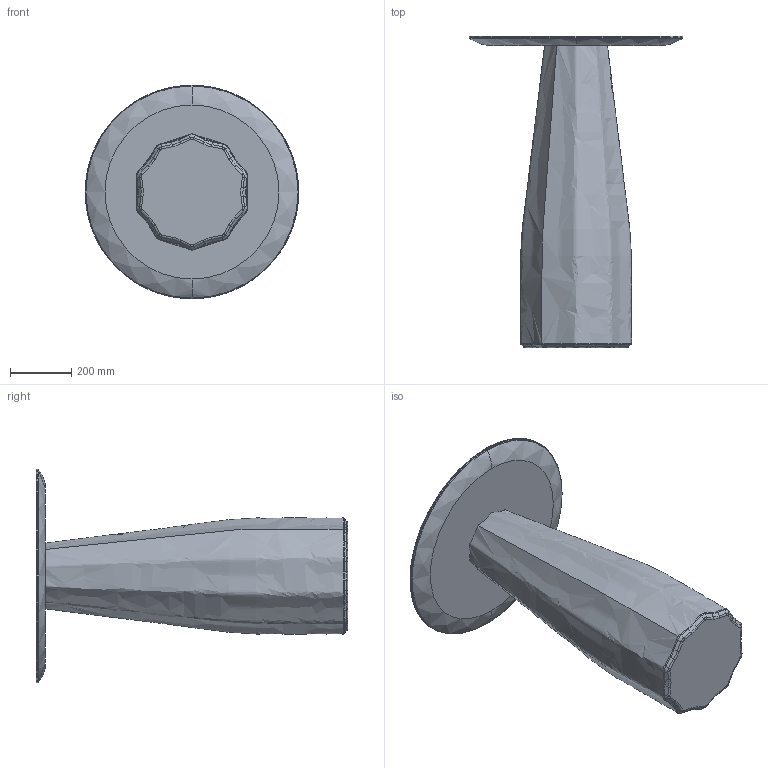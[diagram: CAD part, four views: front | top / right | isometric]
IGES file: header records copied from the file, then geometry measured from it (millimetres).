
Start section: SolidWorks IGES file using analytic representation for surfaces
Global section: file name: Z:\01-VICCARBE\VICCARBE TECNICO 2018\6.-Studio VCCB\Otros\Burin\Modelado\WEB\Nueva carpeta\BurinH100D70.IGS; native system: SolidWorks 2013; preprocessor: SolidWorks 2013; author: Usuario; date: 190219.123949; units: millimetre
Bounding box: 700 x 1020 x 700 mm (x, y, z)
Volume: 88783849.8 mm3; surface area: 1928220.6 mm2
Topology: 2 solids, 2 shells, 156 faces, 408 edges, 236 vertices
Faces by surface type: bspline 142, revolution 10, plane 4
